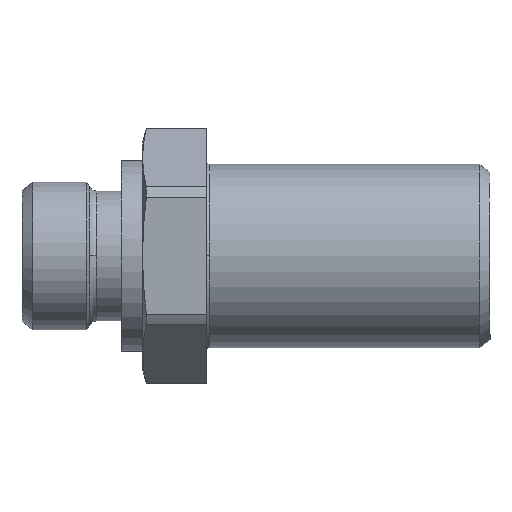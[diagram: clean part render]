
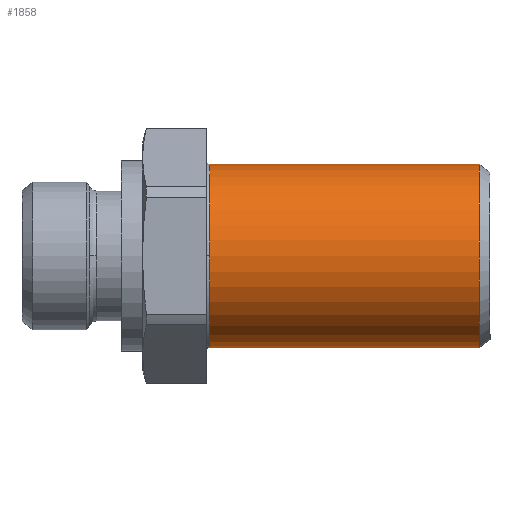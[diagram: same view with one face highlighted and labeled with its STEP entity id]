
A CAD part, top view. The second image highlights one B-rep face of the part: STEP entity #1858.
In plain terms, the highlighted cylindrical face has radius 12.925 mm (diameter 25.85 mm), a partial arc.
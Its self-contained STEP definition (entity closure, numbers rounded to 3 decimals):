
#326=CARTESIAN_POINT('',(0.,-12.925,-5.));
#327=VERTEX_POINT('',#326);
#335=CARTESIAN_POINT('',(12.925,0.,-5.0));
#336=VERTEX_POINT('',#335);
#337=CARTESIAN_POINT('',(0.,0.,-5.0));
#338=DIRECTION('',(0.0,0.0,1.0));
#339=DIRECTION('',(0.0,1.0,0.0));
#340=AXIS2_PLACEMENT_3D('',#337,#338,#339);
#341=CIRCLE('',#340,12.925);
#342=EDGE_CURVE('',#327,#336,#341,.T.);
#368=CARTESIAN_POINT('',(0.,12.925,-43.007));
#369=VERTEX_POINT('',#368);
#370=CARTESIAN_POINT('',(0.,12.925,-5.0));
#371=VERTEX_POINT('',#370);
#372=CARTESIAN_POINT('',(0.,12.925,-43.007));
#373=DIRECTION('',(0.0,0.0,1.0));
#374=VECTOR('',#373,38.007);
#375=LINE('',#372,#374);
#376=EDGE_CURVE('',#369,#371,#375,.T.);
#378=CARTESIAN_POINT('',(0.,-12.925,-43.007));
#379=VERTEX_POINT('',#378);
#387=CARTESIAN_POINT('',(0.,-12.925,-5.));
#388=DIRECTION('',(0.0,0.0,-1.0));
#389=VECTOR('',#388,38.007);
#390=LINE('',#387,#389);
#391=EDGE_CURVE('',#327,#379,#390,.T.);
#1828=CARTESIAN_POINT('',(0.,0.,-43.007));
#1829=DIRECTION('',(0.0,0.0,1.0));
#1830=DIRECTION('',(0.0,1.0,0.0));
#1831=AXIS2_PLACEMENT_3D('',#1828,#1829,#1830);
#1832=CIRCLE('',#1831,12.925);
#1833=EDGE_CURVE('',#379,#369,#1832,.T.);
#1840=CARTESIAN_POINT('',(0.,0.,-24.004));
#1841=DIRECTION('',(0.,0.,1.0));
#1842=DIRECTION('',(0.0,1.0,0.0));
#1843=AXIS2_PLACEMENT_3D('',#1840,#1841,#1842);
#1844=CYLINDRICAL_SURFACE('',#1843,12.925);
#1845=ORIENTED_EDGE('',*,*,#376,.T.);
#1846=CARTESIAN_POINT('',(0.,0.,-5.0));
#1847=DIRECTION('',(0.0,0.0,1.0));
#1848=DIRECTION('',(0.0,1.0,0.0));
#1849=AXIS2_PLACEMENT_3D('',#1846,#1847,#1848);
#1850=CIRCLE('',#1849,12.925);
#1851=EDGE_CURVE('',#336,#371,#1850,.T.);
#1852=ORIENTED_EDGE('',*,*,#1851,.F.);
#1853=ORIENTED_EDGE('',*,*,#342,.F.);
#1854=ORIENTED_EDGE('',*,*,#391,.T.);
#1855=ORIENTED_EDGE('',*,*,#1833,.T.);
#1856=EDGE_LOOP('',(#1845,#1852,#1853,#1854,#1855));
#1857=FACE_OUTER_BOUND('',#1856,.T.);
#1858=ADVANCED_FACE('',(#1857),#1844,.T.);
